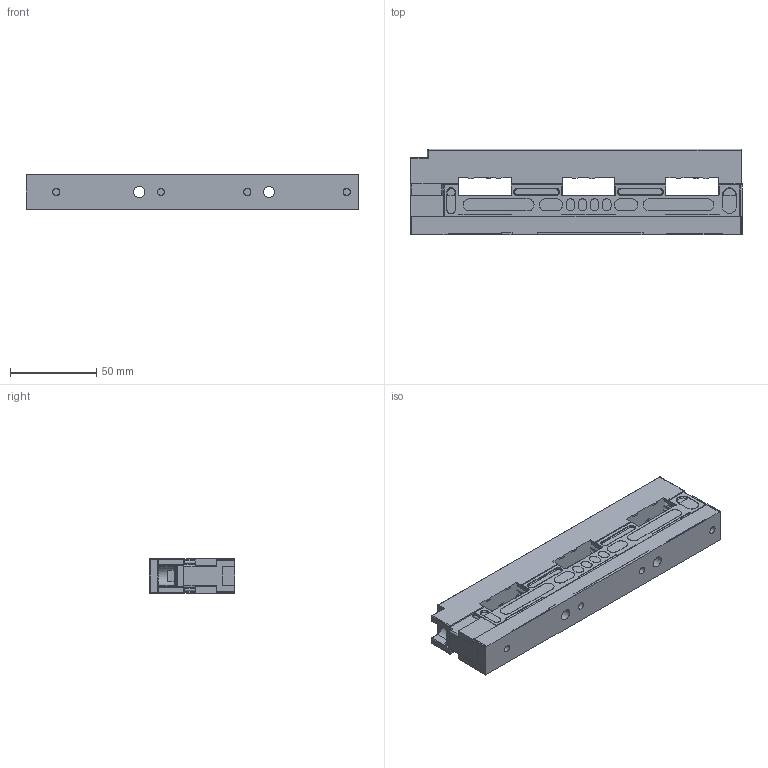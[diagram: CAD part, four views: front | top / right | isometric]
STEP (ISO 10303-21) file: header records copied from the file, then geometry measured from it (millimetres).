
FILE_DESCRIPTION (( 'STEP AP214' ), '1' );
FILE_NAME ('DN52495¼òÒ×3D1.STEP', '2020-05-21T04:46:54', ( '' ), ( '' ), 'SwSTEP 2.0', 'SolidWorks 2017', '' );
FILE_SCHEMA (( 'AUTOMOTIVE_DESIGN' ));
Length unit declared in the file: millimetre
Products named in the file (1): DN52495潠眢3D1
Bounding box: 192 x 49.5 x 20 mm (x, y, z)
Volume: 143549.2 mm3; surface area: 63093.4 mm2
Topology: 2 solids, 44 shells, 1627 faces, 4230 edges, 2782 vertices
Faces by surface type: plane 1001, cylinder 377, bspline 174, cone 54, torus 13, sphere 8
Full cylindrical faces by diameter (mm): 3.6 x4, 4 x4, 4.2 x4, 5 x4, 5.5 x8, 6.5 x6, 7.002 x4, 9 x4, 9.3 x4, 10.5 x3, 11 x4
Entity records: 81306 total; most frequent: CARTESIAN_POINT 26728, ORIENTED_EDGE 8288, DIRECTION 6763, EDGE_CURVE 4144, VERTEX_POINT 2768, VECTOR 2749, LINE 2749, AXIS2_PLACEMENT_3D 2007
